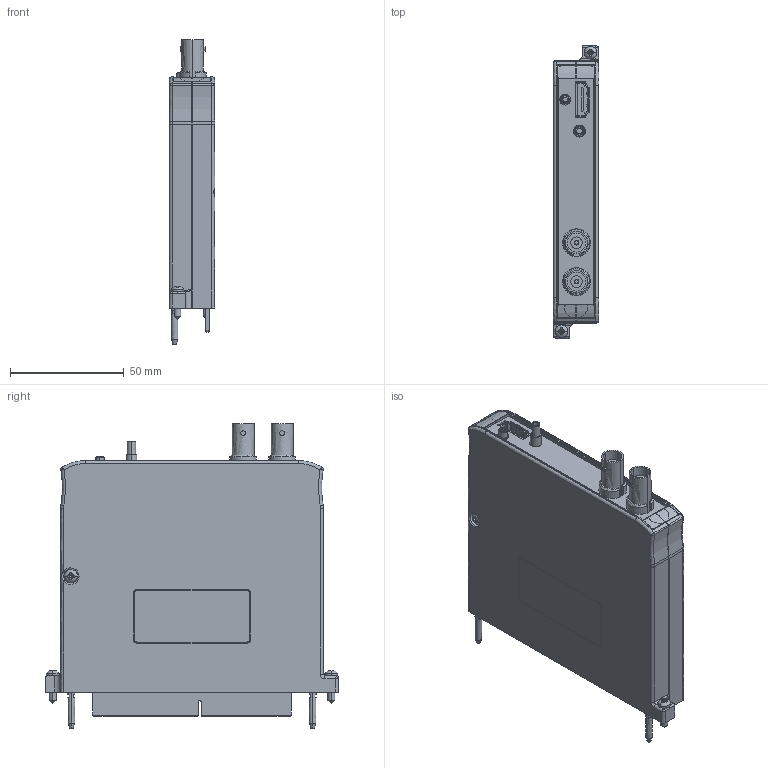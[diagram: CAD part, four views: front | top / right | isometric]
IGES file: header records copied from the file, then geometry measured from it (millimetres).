
Start section:  PTC IGES file: cu_ni-573x.igs
Global section: file name: cu_ni-573x.igs; native system: Pro/ENGINEER by Parametric Technology Corporation; preprocessor: 2006510; author: jjorden; organization: Unknown; date: 20101130.160438; units: inch
Bounding box: 20.02 x 128.65 x 134.05 mm (x, y, z)
Surface area: 93340.9 mm2 (no closed solid volume)
Topology: 0 solids, 0 shells, 1566 faces, 8162 edges, 8122 vertices
Faces by surface type: bspline 931, revolution 635
